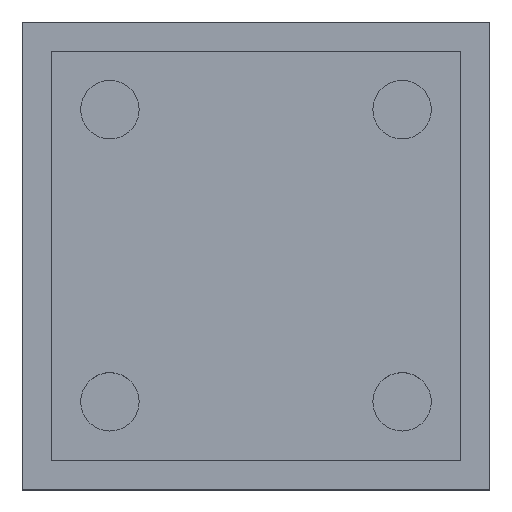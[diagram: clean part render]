
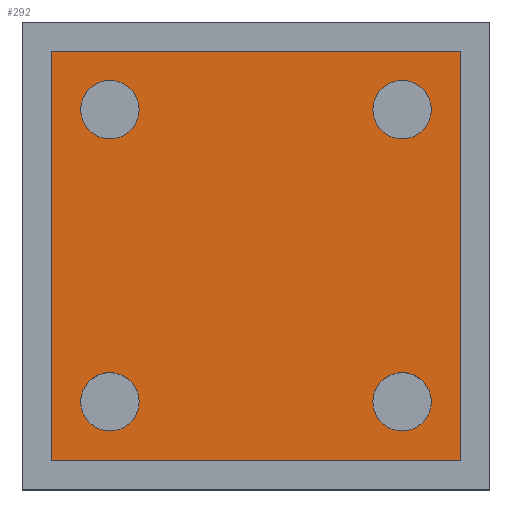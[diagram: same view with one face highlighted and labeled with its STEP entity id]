
A CAD part, top view. The second image highlights one B-rep face of the part: STEP entity #292.
In plain terms, the highlighted planar face has unit normal (0, 0, 1).
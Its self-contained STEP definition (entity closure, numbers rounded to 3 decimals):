
#15=CIRCLE('',#320,5.);
#17=CIRCLE('',#323,5.);
#19=CIRCLE('',#326,5.);
#21=CIRCLE('',#329,5.);
#28=FACE_BOUND('',#67,.T.);
#29=FACE_BOUND('',#68,.T.);
#30=FACE_BOUND('',#69,.T.);
#31=FACE_BOUND('',#70,.T.);
#46=FACE_OUTER_BOUND('',#66,.T.);
#66=EDGE_LOOP('',(#251,#252,#253,#254));
#67=EDGE_LOOP('',(#255));
#68=EDGE_LOOP('',(#256));
#69=EDGE_LOOP('',(#257));
#70=EDGE_LOOP('',(#258));
#92=LINE('',#461,#120);
#95=LINE('',#466,#123);
#100=LINE('',#493,#128);
#102=LINE('',#496,#130);
#120=VECTOR('',#371,10.);
#123=VECTOR('',#376,10.);
#128=VECTOR('',#407,10.);
#130=VECTOR('',#411,10.);
#143=VERTEX_POINT('',#458);
#144=VERTEX_POINT('',#460);
#145=VERTEX_POINT('',#464);
#146=VERTEX_POINT('',#468);
#148=VERTEX_POINT('',#474);
#150=VERTEX_POINT('',#480);
#152=VERTEX_POINT('',#486);
#154=VERTEX_POINT('',#492);
#172=EDGE_CURVE('',#144,#143,#92,.T.);
#175=EDGE_CURVE('',#143,#145,#95,.T.);
#176=EDGE_CURVE('',#146,#146,#15,.T.);
#179=EDGE_CURVE('',#148,#148,#17,.T.);
#182=EDGE_CURVE('',#150,#150,#19,.T.);
#185=EDGE_CURVE('',#152,#152,#21,.T.);
#188=EDGE_CURVE('',#154,#144,#100,.T.);
#190=EDGE_CURVE('',#145,#154,#102,.T.);
#251=ORIENTED_EDGE('',*,*,#190,.T.);
#252=ORIENTED_EDGE('',*,*,#188,.T.);
#253=ORIENTED_EDGE('',*,*,#172,.T.);
#254=ORIENTED_EDGE('',*,*,#175,.T.);
#255=ORIENTED_EDGE('',*,*,#185,.T.);
#256=ORIENTED_EDGE('',*,*,#176,.T.);
#257=ORIENTED_EDGE('',*,*,#179,.T.);
#258=ORIENTED_EDGE('',*,*,#182,.T.);
#273=PLANE('',#333);
#292=ADVANCED_FACE('',(#46,#28,#29,#30,#31),#273,.T.);
#320=AXIS2_PLACEMENT_3D('',#469,#379,#380);
#323=AXIS2_PLACEMENT_3D('',#475,#386,#387);
#326=AXIS2_PLACEMENT_3D('',#481,#393,#394);
#329=AXIS2_PLACEMENT_3D('',#487,#400,#401);
#333=AXIS2_PLACEMENT_3D('',#497,#412,#413);
#371=DIRECTION('',(-1.,0.,0.));
#376=DIRECTION('',(0.,-1.,0.));
#379=DIRECTION('center_axis',(0.,0.,-1.));
#380=DIRECTION('ref_axis',(1.,0.,0.));
#386=DIRECTION('center_axis',(0.,0.,-1.));
#387=DIRECTION('ref_axis',(1.,0.,0.));
#393=DIRECTION('center_axis',(0.,0.,-1.));
#394=DIRECTION('ref_axis',(1.,0.,0.));
#400=DIRECTION('center_axis',(0.,0.,-1.));
#401=DIRECTION('ref_axis',(1.,0.,0.));
#407=DIRECTION('',(0.,1.,0.));
#411=DIRECTION('',(1.,0.,0.));
#412=DIRECTION('center_axis',(0.,0.,1.));
#413=DIRECTION('ref_axis',(1.,0.,0.));
#458=CARTESIAN_POINT('',(-35.,35.,52.));
#460=CARTESIAN_POINT('',(35.,35.,52.));
#461=CARTESIAN_POINT('',(-35.,35.,52.));
#464=CARTESIAN_POINT('',(-35.,-35.,52.));
#466=CARTESIAN_POINT('',(-35.,-35.,52.));
#468=CARTESIAN_POINT('',(-30.,-25.,52.));
#469=CARTESIAN_POINT('Origin',(-25.,-25.,52.));
#474=CARTESIAN_POINT('',(-30.,25.,52.));
#475=CARTESIAN_POINT('Origin',(-25.,25.,52.));
#480=CARTESIAN_POINT('',(20.,25.,52.));
#481=CARTESIAN_POINT('Origin',(25.,25.,52.));
#486=CARTESIAN_POINT('',(20.,-25.,52.));
#487=CARTESIAN_POINT('Origin',(25.,-25.,52.));
#492=CARTESIAN_POINT('',(35.,-35.,52.));
#493=CARTESIAN_POINT('',(35.,35.,52.));
#496=CARTESIAN_POINT('',(35.,-35.,52.));
#497=CARTESIAN_POINT('Origin',(0.,0.,52.));
